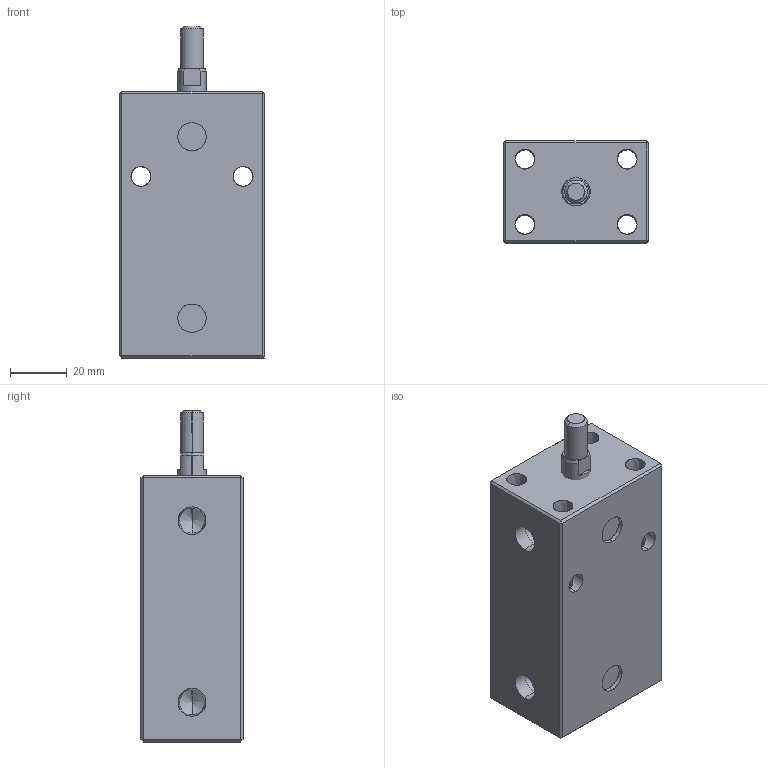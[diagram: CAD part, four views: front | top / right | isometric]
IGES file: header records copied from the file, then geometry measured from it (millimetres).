
Start section: SolidWorks IGES file using analytic representation for surfaces
Global section: file name: E:\ALL-SSVT-BLOCK\IGS-MODEL\BC04-16-50M.IGS; native system: SolidWorks 2019; preprocessor: SolidWorks 2019; author: SSVT; date: 210823.153853; units: millimetre
Bounding box: 51 x 36 x 117 mm (x, y, z)
Surface area: 30674.2 mm2 (no closed solid volume)
Topology: 0 solids, 0 shells, 86 faces, 1561 edges, 1557 vertices
Faces by surface type: revolution 53, bspline 33
